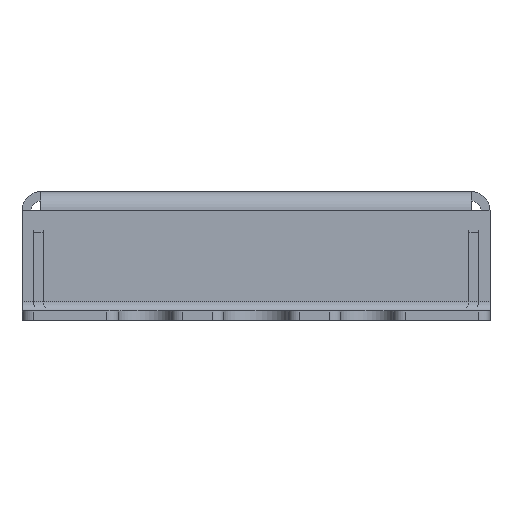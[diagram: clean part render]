
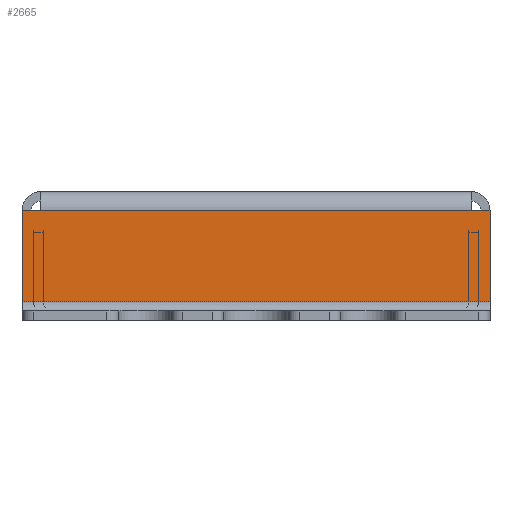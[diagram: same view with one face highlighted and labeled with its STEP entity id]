
A CAD part, left-side view. The second image highlights one B-rep face of the part: STEP entity #2665.
In plain terms, the highlighted planar face has unit normal (-1, 0, 0).
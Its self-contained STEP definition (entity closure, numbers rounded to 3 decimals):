
#48=LINE($,#3980,#296);
#49=LINE($,#3982,#297);
#50=LINE($,#3984,#298);
#51=LINE($,#3986,#299);
#52=LINE($,#3988,#300);
#53=LINE($,#3989,#301);
#296=VECTOR($,#3199,40.);
#297=VECTOR($,#3200,7.8);
#298=VECTOR($,#3201,1.6);
#299=VECTOR($,#3202,36.8);
#300=VECTOR($,#3203,1.6);
#301=VECTOR($,#3204,7.8);
#530=PLANE($,#2848);
#679=FACE_OUTER_BOUND($,#842,.T.);
#842=EDGE_LOOP($,(#1800,#1801,#1802,#1803,#1804,#1805));
#1144=VERTEX_POINT($,#3978);
#1145=VERTEX_POINT($,#3979);
#1146=VERTEX_POINT($,#3981);
#1147=VERTEX_POINT($,#3983);
#1148=VERTEX_POINT($,#3985);
#1149=VERTEX_POINT($,#3987);
#1392=EDGE_CURVE($,#1144,#1145,#48,.T.);
#1393=EDGE_CURVE($,#1146,#1145,#49,.T.);
#1394=EDGE_CURVE($,#1146,#1147,#50,.T.);
#1395=EDGE_CURVE($,#1147,#1148,#51,.T.);
#1396=EDGE_CURVE($,#1148,#1149,#52,.T.);
#1397=EDGE_CURVE($,#1149,#1144,#53,.T.);
#1800=ORIENTED_EDGE($,*,*,#1392,.T.);
#1801=ORIENTED_EDGE($,*,*,#1393,.F.);
#1802=ORIENTED_EDGE($,*,*,#1394,.T.);
#1803=ORIENTED_EDGE($,*,*,#1395,.T.);
#1804=ORIENTED_EDGE($,*,*,#1396,.T.);
#1805=ORIENTED_EDGE($,*,*,#1397,.T.);
#2665=ADVANCED_FACE($,(#679),#530,.T.);
#2848=AXIS2_PLACEMENT_3D($,#3977,#3197,#3198);
#3197=DIRECTION('center_axis',(-1.,0.,0.));
#3198=DIRECTION('ref_axis',(0.,0.,
1.));
#3199=DIRECTION($,(0.,-1.,0.));
#3200=DIRECTION($,(0.,0.,-1.));
#3201=DIRECTION($,(0.,1.,0.));
#3202=DIRECTION($,(0.,1.,0.));
#3203=DIRECTION($,(0.,1.,0.));
#3204=DIRECTION($,(0.,0.,-1.));
#3977=CARTESIAN_POINT('Origin',(-35.,0.,0.105));
#3978=CARTESIAN_POINT('',(-35.,20.,-3.9));
#3979=CARTESIAN_POINT('',(-35.,-20.,-3.9));
#3980=CARTESIAN_POINT($,(-35.,10.,-3.9));
#3981=CARTESIAN_POINT('',(-35.,-20.,3.9));
#3982=CARTESIAN_POINT($,(-35.,-20.,7.519));
#3983=CARTESIAN_POINT('',(-35.,-18.4,3.9));
#3984=CARTESIAN_POINT($,(-35.,0.,3.9));
#3985=CARTESIAN_POINT('',(-35.,18.4,3.9));
#3986=CARTESIAN_POINT($,(-35.,0.,3.9));
#3987=CARTESIAN_POINT('',(-35.,20.,3.9));
#3988=CARTESIAN_POINT($,(-35.,0.,3.9));
#3989=CARTESIAN_POINT($,(-35.,20.,7.519));
